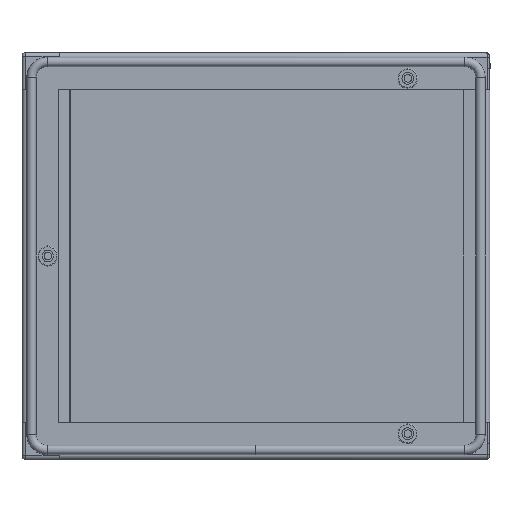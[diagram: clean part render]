
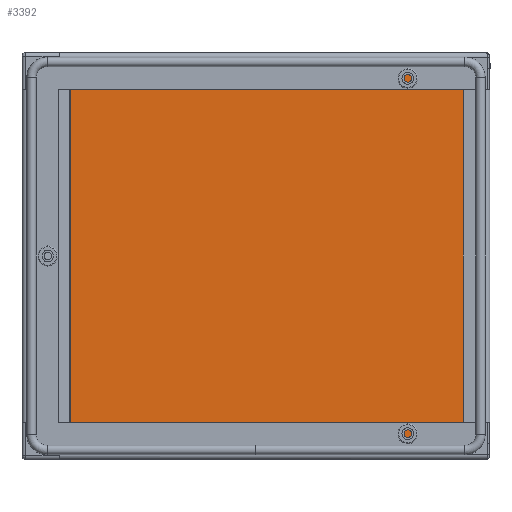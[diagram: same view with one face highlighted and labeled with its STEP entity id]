
A CAD part, left-side view. The second image highlights one B-rep face of the part: STEP entity #3392.
In plain terms, the highlighted planar face has unit normal (-1, 0, 0).
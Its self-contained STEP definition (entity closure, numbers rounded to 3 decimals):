
#204 = VERTEX_POINT ( 'NONE', #661 ) ;
#339 = EDGE_CURVE ( 'NONE', #5300, #2251, #5217, .T. ) ;
#415 = VERTEX_POINT ( 'NONE', #5098 ) ;
#468 = CARTESIAN_POINT ( 'NONE',  ( -1.4, 0., 0. ) ) ;
#485 = DIRECTION ( 'NONE',  ( 0., 0., 1. ) ) ;
#522 = CARTESIAN_POINT ( 'NONE',  ( -1.4, 131.199, 127.1 ) ) ;
#578 = CARTESIAN_POINT ( 'NONE',  ( -1.4, -133.8, -127.1 ) ) ;
#661 = CARTESIAN_POINT ( 'NONE',  ( -1.4, -133.8, -127.1 ) ) ;
#945 = EDGE_CURVE ( 'NONE', #2251, #415, #2681, .T. ) ;
#1094 = DIRECTION ( 'NONE',  ( 0., 0., 1. ) ) ;
#1260 = ORIENTED_EDGE ( 'NONE', *, *, #2333, .F. ) ;
#1322 = PLANE ( 'NONE',  #4120 ) ;
#1440 = VECTOR ( 'NONE', #4764, 1000. ) ;
#1456 = CARTESIAN_POINT ( 'NONE',  ( -1.4, -133.8, 128.3 ) ) ;
#2198 = ORIENTED_EDGE ( 'NONE', *, *, #2217, .F. ) ;
#2217 = EDGE_CURVE ( 'NONE', #415, #204, #3368, .T. ) ;
#2251 = VERTEX_POINT ( 'NONE', #3492 ) ;
#2333 = EDGE_CURVE ( 'NONE', #204, #5300, #4687, .T. ) ;
#2681 = LINE ( 'NONE', #522, #1440 ) ;
#3091 = DIRECTION ( 'NONE',  ( 0., 0., -1. ) ) ;
#3103 = VECTOR ( 'NONE', #5196, 1000. ) ;
#3159 = CARTESIAN_POINT ( 'NONE',  ( -1.4, 131.199, -127.1 ) ) ;
#3169 = VECTOR ( 'NONE', #3091, 1000. ) ;
#3368 = LINE ( 'NONE', #1456, #3169 ) ;
#3392 = ADVANCED_FACE ( 'NONE', ( #3683 ), #1322, .T. ) ;
#3410 = VECTOR ( 'NONE', #1094, 1000. ) ;
#3492 = CARTESIAN_POINT ( 'NONE',  ( -1.4, 131.199, 127.1 ) ) ;
#3657 = CARTESIAN_POINT ( 'NONE',  ( -1.4, 131.199, -128.3 ) ) ;
#3683 = FACE_OUTER_BOUND ( 'NONE', #3944, .T. ) ;
#3882 = ORIENTED_EDGE ( 'NONE', *, *, #339, .F. ) ;
#3944 = EDGE_LOOP ( 'NONE', ( #3882, #1260, #2198, #4239 ) ) ;
#4120 = AXIS2_PLACEMENT_3D ( 'NONE', #468, #4262, #485 ) ;
#4239 = ORIENTED_EDGE ( 'NONE', *, *, #945, .F. ) ;
#4262 = DIRECTION ( 'NONE',  ( -1., 0., 0. ) ) ;
#4687 = LINE ( 'NONE', #578, #3103 ) ;
#4764 = DIRECTION ( 'NONE',  ( 0., -1., 0. ) ) ;
#5098 = CARTESIAN_POINT ( 'NONE',  ( -1.4, -133.8, 127.1 ) ) ;
#5196 = DIRECTION ( 'NONE',  ( 0., 1., 0. ) ) ;
#5217 = LINE ( 'NONE', #3657, #3410 ) ;
#5300 = VERTEX_POINT ( 'NONE', #3159 ) ;
